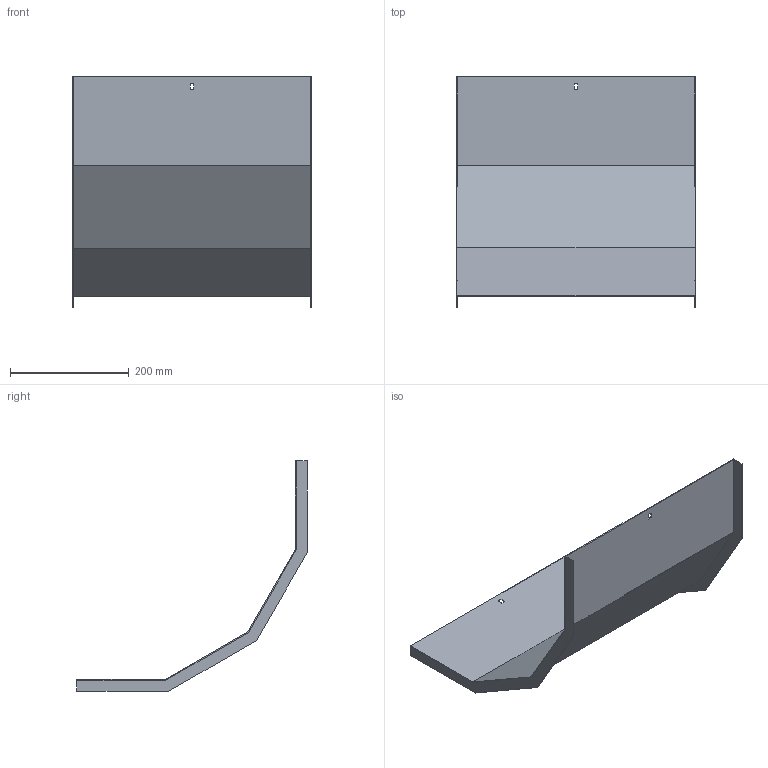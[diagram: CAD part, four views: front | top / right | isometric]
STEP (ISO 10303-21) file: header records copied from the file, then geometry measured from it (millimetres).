
FILE_DESCRIPTION (( 'STEP AP214' ), '1' );
FILE_NAME ('A2X30N3R400X.step', '2025-04-02T08:34:13', ( '' ), ( '' ), 'SwSTEP 2.0', 'SolidWorks 2023', '' );
FILE_SCHEMA (( 'AUTOMOTIVE_DESIGN' ));
Length unit declared in the file: millimetre
Products named in the file (1): A2X30N3R400X
Bounding box: 403 x 388.95 x 388.95 mm (x, y, z)
Volume: 410976.6 mm3; surface area: 551335.8 mm2
Topology: 1 solids, 1 shells, 30 faces, 84 edges, 56 vertices
Faces by surface type: plane 30
Entity records: 979 total; most frequent: CARTESIAN_POINT 171, ORIENTED_EDGE 168, DIRECTION 146, VECTOR 84, EDGE_CURVE 84, LINE 84, VERTEX_POINT 56, EDGE_LOOP 34
